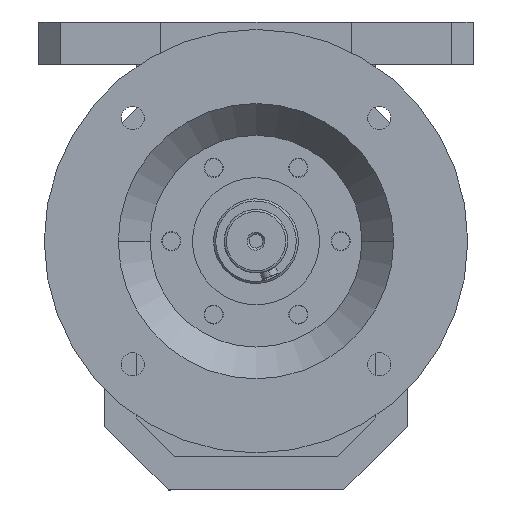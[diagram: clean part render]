
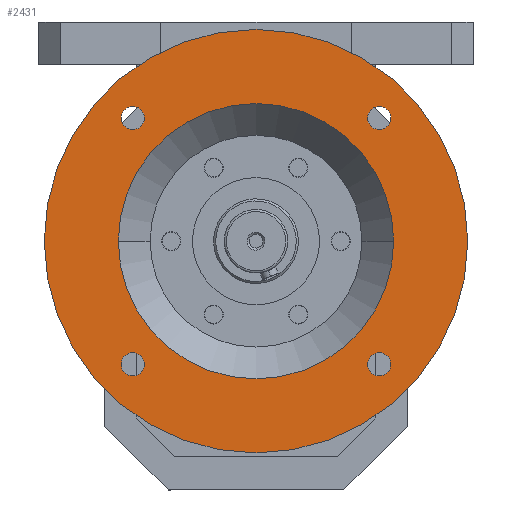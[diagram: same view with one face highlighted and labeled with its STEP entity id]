
A CAD part, front view. The second image highlights one B-rep face of the part: STEP entity #2431.
In plain terms, the highlighted planar face has unit normal (0, -1, 0).
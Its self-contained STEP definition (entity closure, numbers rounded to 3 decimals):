
#168 = EDGE_CURVE ( 'NONE', #7283, #6481, #4032, .T. ) ;
#169 = CARTESIAN_POINT ( 'NONE',  ( -82.66, -19.104, -58.16 ) ) ;
#178 = VERTEX_POINT ( 'NONE', #1083 ) ;
#200 = CIRCLE ( 'NONE', #1798, 65. ) ;
#256 = EDGE_CURVE ( 'NONE', #5300, #4030, #5973, .T. ) ;
#304 = EDGE_CURVE ( 'NONE', #2003, #5947, #200, .T. ) ;
#342 = CARTESIAN_POINT ( 'NONE',  ( -88.16, -19.104, -58.16 ) ) ;
#367 = DIRECTION ( 'NONE',  ( 0., 0., -1. ) ) ;
#549 = CARTESIAN_POINT ( 'NONE',  ( 35., -19.104, 0. ) ) ;
#703 = ORIENTED_EDGE ( 'NONE', *, *, #4411, .T. ) ;
#825 = AXIS2_PLACEMENT_3D ( 'NONE', #2917, #2484, #2427 ) ;
#840 = DIRECTION ( 'NONE',  ( 0., 1., 0. ) ) ;
#875 = AXIS2_PLACEMENT_3D ( 'NONE', #2120, #1642, #1568 ) ;
#928 = DIRECTION ( 'NONE',  ( -1., 0., 0. ) ) ;
#993 = EDGE_CURVE ( 'NONE', #5947, #2003, #5879, .T. ) ;
#1041 = EDGE_CURVE ( 'NONE', #6481, #7283, #7016, .T. ) ;
#1083 = CARTESIAN_POINT ( 'NONE',  ( 33.66, -19.104, 58.16 ) ) ;
#1110 = DIRECTION ( 'NONE',  ( 0., 0., -1. ) ) ;
#1152 = CARTESIAN_POINT ( 'NONE',  ( -30., -19.104, 0. ) ) ;
#1438 = FACE_BOUND ( 'NONE', #2706, .T. ) ;
#1468 = AXIS2_PLACEMENT_3D ( 'NONE', #6512, #3086, #7075 ) ;
#1532 = ORIENTED_EDGE ( 'NONE', *, *, #993, .T. ) ;
#1568 = DIRECTION ( 'NONE',  ( -1., 0., 0. ) ) ;
#1592 = VERTEX_POINT ( 'NONE', #6020 ) ;
#1642 = DIRECTION ( 'NONE',  ( 0., 1., 0. ) ) ;
#1680 = AXIS2_PLACEMENT_3D ( 'NONE', #342, #4414, #928 ) ;
#1684 = EDGE_CURVE ( 'NONE', #1977, #2348, #3108, .T. ) ;
#1723 = DIRECTION ( 'NONE',  ( -1., 0., 0. ) ) ;
#1798 = AXIS2_PLACEMENT_3D ( 'NONE', #5814, #5789, #5745 ) ;
#1848 = CIRCLE ( 'NONE', #2685, 100. ) ;
#1932 = CARTESIAN_POINT ( 'NONE',  ( 28.16, -19.104, -63.66 ) ) ;
#1977 = VERTEX_POINT ( 'NONE', #5367 ) ;
#2000 = CARTESIAN_POINT ( 'NONE',  ( 28.16, -19.104, -58.16 ) ) ;
#2003 = VERTEX_POINT ( 'NONE', #2491 ) ;
#2032 = EDGE_LOOP ( 'NONE', ( #703, #6193 ) ) ;
#2085 = DIRECTION ( 'NONE',  ( 0., 1., 0. ) ) ;
#2120 = CARTESIAN_POINT ( 'NONE',  ( -30., -19.104, 0. ) ) ;
#2167 = AXIS2_PLACEMENT_3D ( 'NONE', #4325, #840, #4877 ) ;
#2198 = CARTESIAN_POINT ( 'NONE',  ( -30., -19.104, 0. ) ) ;
#2288 = PLANE ( 'NONE',  #3524 ) ;
#2289 = EDGE_LOOP ( 'NONE', ( #6367, #7180 ) ) ;
#2308 = DIRECTION ( 'NONE',  ( 0., 1., 0. ) ) ;
#2332 = DIRECTION ( 'NONE',  ( -1., 0., 0. ) ) ;
#2348 = VERTEX_POINT ( 'NONE', #6779 ) ;
#2385 = VERTEX_POINT ( 'NONE', #6236 ) ;
#2427 = DIRECTION ( 'NONE',  ( 0., 0., 1. ) ) ;
#2431 = ADVANCED_FACE ( 'NONE', ( #3010, #6049, #1438, #7381, #5882, #4369 ), #2288, .F. ) ;
#2481 = ORIENTED_EDGE ( 'NONE', *, *, #1684, .T. ) ;
#2484 = DIRECTION ( 'NONE',  ( 0., 1., 0. ) ) ;
#2491 = CARTESIAN_POINT ( 'NONE',  ( 35., -19.104, 0. ) ) ;
#2637 = DIRECTION ( 'NONE',  ( 0., 1., 0. ) ) ;
#2644 = AXIS2_PLACEMENT_3D ( 'NONE', #6216, #2776, #6783 ) ;
#2685 = AXIS2_PLACEMENT_3D ( 'NONE', #1152, #5213, #1723 ) ;
#2706 = EDGE_LOOP ( 'NONE', ( #5189, #3639 ) ) ;
#2776 = DIRECTION ( 'NONE',  ( 0., 1., 0. ) ) ;
#2903 = CARTESIAN_POINT ( 'NONE',  ( 70., -19.104, 0. ) ) ;
#2917 = CARTESIAN_POINT ( 'NONE',  ( -88.16, -19.104, 58.16 ) ) ;
#2996 = ORIENTED_EDGE ( 'NONE', *, *, #256, .F. ) ;
#3010 = FACE_BOUND ( 'NONE', #3981, .T. ) ;
#3086 = DIRECTION ( 'NONE',  ( 0., 1., 0. ) ) ;
#3097 = DIRECTION ( 'NONE',  ( 0., 1., 0. ) ) ;
#3108 = CIRCLE ( 'NONE', #825, 5.5 ) ;
#3228 = AXIS2_PLACEMENT_3D ( 'NONE', #2000, #2085, #367 ) ;
#3282 = CARTESIAN_POINT ( 'NONE',  ( 28.16, -19.104, -58.16 ) ) ;
#3403 = CIRCLE ( 'NONE', #2167, 5.5 ) ;
#3524 = AXIS2_PLACEMENT_3D ( 'NONE', #549, #3097, #7086 ) ;
#3639 = ORIENTED_EDGE ( 'NONE', *, *, #168, .T. ) ;
#3663 = CIRCLE ( 'NONE', #1680, 5.5 ) ;
#3909 = EDGE_LOOP ( 'NONE', ( #2996, #4095 ) ) ;
#3916 = EDGE_CURVE ( 'NONE', #2348, #1977, #7112, .T. ) ;
#3964 = DIRECTION ( 'NONE',  ( 0., 1., 0. ) ) ;
#3981 = EDGE_LOOP ( 'NONE', ( #2481, #6266 ) ) ;
#4030 = VERTEX_POINT ( 'NONE', #2903 ) ;
#4032 = CIRCLE ( 'NONE', #5845, 5.5 ) ;
#4095 = ORIENTED_EDGE ( 'NONE', *, *, #5484, .F. ) ;
#4325 = CARTESIAN_POINT ( 'NONE',  ( -88.16, -19.104, -58.16 ) ) ;
#4353 = CARTESIAN_POINT ( 'NONE',  ( -95., -19.104, 0. ) ) ;
#4369 = FACE_BOUND ( 'NONE', #4567, .T. ) ;
#4411 = EDGE_CURVE ( 'NONE', #1592, #4803, #3663, .T. ) ;
#4414 = DIRECTION ( 'NONE',  ( 0., 1., 0. ) ) ;
#4567 = EDGE_LOOP ( 'NONE', ( #6682, #1532 ) ) ;
#4803 = VERTEX_POINT ( 'NONE', #169 ) ;
#4877 = DIRECTION ( 'NONE',  ( -1., 0., 0. ) ) ;
#5189 = ORIENTED_EDGE ( 'NONE', *, *, #1041, .T. ) ;
#5213 = DIRECTION ( 'NONE',  ( 0., 1., 0. ) ) ;
#5297 = AXIS2_PLACEMENT_3D ( 'NONE', #5764, #2308, #6326 ) ;
#5300 = VERTEX_POINT ( 'NONE', #6190 ) ;
#5367 = CARTESIAN_POINT ( 'NONE',  ( -88.16, -19.104, 63.66 ) ) ;
#5484 = EDGE_CURVE ( 'NONE', #4030, #5300, #1848, .T. ) ;
#5745 = DIRECTION ( 'NONE',  ( -1., 0., 0. ) ) ;
#5764 = CARTESIAN_POINT ( 'NONE',  ( 28.16, -19.104, 58.16 ) ) ;
#5789 = DIRECTION ( 'NONE',  ( 0., 1., 0. ) ) ;
#5814 = CARTESIAN_POINT ( 'NONE',  ( -30., -19.104, 0. ) ) ;
#5829 = EDGE_CURVE ( 'NONE', #2385, #178, #7439, .T. ) ;
#5845 = AXIS2_PLACEMENT_3D ( 'NONE', #3282, #3964, #1110 ) ;
#5879 = CIRCLE ( 'NONE', #875, 65. ) ;
#5882 = FACE_OUTER_BOUND ( 'NONE', #3909, .T. ) ;
#5947 = VERTEX_POINT ( 'NONE', #4353 ) ;
#5973 = CIRCLE ( 'NONE', #7356, 100. ) ;
#6020 = CARTESIAN_POINT ( 'NONE',  ( -93.66, -19.104, -58.16 ) ) ;
#6049 = FACE_BOUND ( 'NONE', #2289, .T. ) ;
#6190 = CARTESIAN_POINT ( 'NONE',  ( -130., -19.104, 0. ) ) ;
#6193 = ORIENTED_EDGE ( 'NONE', *, *, #7303, .T. ) ;
#6216 = CARTESIAN_POINT ( 'NONE',  ( -88.16, -19.104, 58.16 ) ) ;
#6236 = CARTESIAN_POINT ( 'NONE',  ( 22.66, -19.104, 58.16 ) ) ;
#6266 = ORIENTED_EDGE ( 'NONE', *, *, #3916, .T. ) ;
#6326 = DIRECTION ( 'NONE',  ( 1., 0., 0. ) ) ;
#6367 = ORIENTED_EDGE ( 'NONE', *, *, #5829, .T. ) ;
#6481 = VERTEX_POINT ( 'NONE', #6593 ) ;
#6512 = CARTESIAN_POINT ( 'NONE',  ( 28.16, -19.104, 58.16 ) ) ;
#6593 = CARTESIAN_POINT ( 'NONE',  ( 28.16, -19.104, -52.66 ) ) ;
#6682 = ORIENTED_EDGE ( 'NONE', *, *, #304, .T. ) ;
#6761 = EDGE_CURVE ( 'NONE', #178, #2385, #6795, .T. ) ;
#6779 = CARTESIAN_POINT ( 'NONE',  ( -88.16, -19.104, 52.66 ) ) ;
#6783 = DIRECTION ( 'NONE',  ( 0., 0., 1. ) ) ;
#6795 = CIRCLE ( 'NONE', #5297, 5.5 ) ;
#7016 = CIRCLE ( 'NONE', #3228, 5.5 ) ;
#7075 = DIRECTION ( 'NONE',  ( 1., 0., 0. ) ) ;
#7086 = DIRECTION ( 'NONE',  ( -1., 0., 0. ) ) ;
#7112 = CIRCLE ( 'NONE', #2644, 5.5 ) ;
#7180 = ORIENTED_EDGE ( 'NONE', *, *, #6761, .T. ) ;
#7283 = VERTEX_POINT ( 'NONE', #1932 ) ;
#7303 = EDGE_CURVE ( 'NONE', #4803, #1592, #3403, .T. ) ;
#7356 = AXIS2_PLACEMENT_3D ( 'NONE', #2198, #2637, #2332 ) ;
#7381 = FACE_BOUND ( 'NONE', #2032, .T. ) ;
#7439 = CIRCLE ( 'NONE', #1468, 5.5 ) ;
